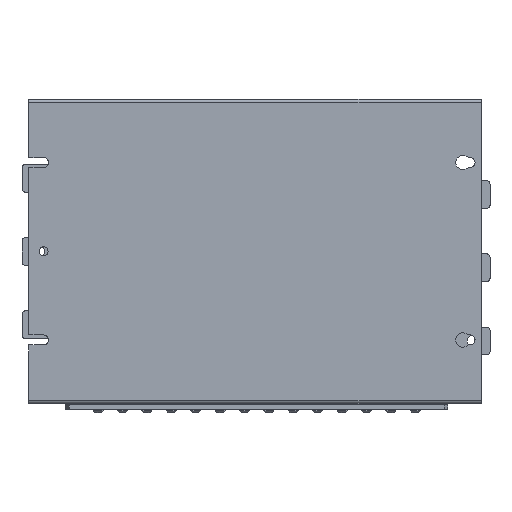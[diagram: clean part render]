
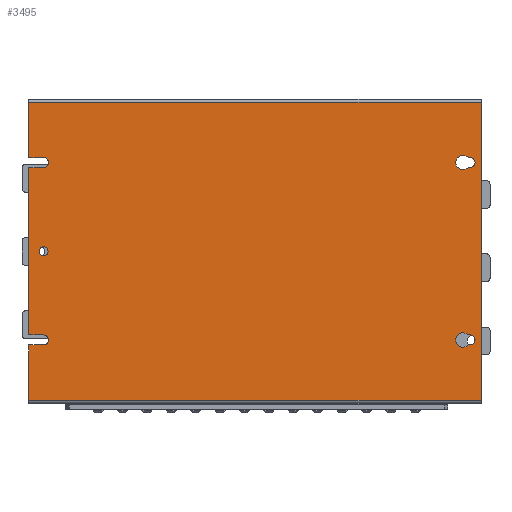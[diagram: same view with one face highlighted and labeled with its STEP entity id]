
A CAD part, top view. The second image highlights one B-rep face of the part: STEP entity #3495.
In plain terms, the highlighted planar face has unit normal (0, 0, 1).
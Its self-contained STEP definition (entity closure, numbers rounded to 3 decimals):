
#3495=ADVANCED_FACE('',(#35892,#35894,#35896,#35898),#35900,.T.);
#35892=FACE_BOUND('',#35893,.T.);
#35893=EDGE_LOOP('',(#67428,#67429,#67430,#67431,#67432,#67433,#67434,#67435,#67436,
#67437,#67438,#67439));
#35894=FACE_BOUND('',#35895,.T.);
#35895=EDGE_LOOP('',(#67440,#67441,#67442,#67443));
#35896=FACE_BOUND('',#35897,.T.);
#35897=EDGE_LOOP('',(#67444,#67445,#67446,#67447));
#35898=FACE_BOUND('',#35899,.T.);
#35899=EDGE_LOOP('',(#67448));
#35900=PLANE('',#35901);
#35901=AXIS2_PLACEMENT_3D('',#35902,#35903,#35904);
#35902=CARTESIAN_POINT('',(0.,137.,0.));
#35903=DIRECTION('',(0.,0.,1.));
#35904=DIRECTION('',(0.,-1.,0.));
#67428=ORIENTED_EDGE('',*,*,#93146,.F.);
#67429=ORIENTED_EDGE('',*,*,#93147,.T.);
#67430=ORIENTED_EDGE('',*,*,#93148,.T.);
#67431=ORIENTED_EDGE('',*,*,#93149,.F.);
#67432=ORIENTED_EDGE('',*,*,#93150,.F.);
#67433=ORIENTED_EDGE('',*,*,#93151,.T.);
#67434=ORIENTED_EDGE('',*,*,#93145,.F.);
#67435=ORIENTED_EDGE('',*,*,#93152,.F.);
#67436=ORIENTED_EDGE('',*,*,#93153,.T.);
#67437=ORIENTED_EDGE('',*,*,#93154,.T.);
#67438=ORIENTED_EDGE('',*,*,#93155,.T.);
#67439=ORIENTED_EDGE('',*,*,#93156,.F.);
#67440=ORIENTED_EDGE('',*,*,#93157,.T.);
#67441=ORIENTED_EDGE('',*,*,#93158,.F.);
#67442=ORIENTED_EDGE('',*,*,#93159,.T.);
#67443=ORIENTED_EDGE('',*,*,#93160,.F.);
#67444=ORIENTED_EDGE('',*,*,#93161,.F.);
#67445=ORIENTED_EDGE('',*,*,#93162,.T.);
#67446=ORIENTED_EDGE('',*,*,#93163,.F.);
#67447=ORIENTED_EDGE('',*,*,#93164,.T.);
#67448=ORIENTED_EDGE('',*,*,#93165,.T.);
#93145=EDGE_CURVE('',#103526,#103529,#103531,.T.);
#93146=EDGE_CURVE('',#103532,#103533,#103534,.T.);
#93147=EDGE_CURVE('',#103532,#103535,#103536,.T.);
#93148=EDGE_CURVE('',#103535,#103537,#103538,.T.);
#93149=EDGE_CURVE('',#103539,#103537,#103540,.T.);
#93150=EDGE_CURVE('',#103541,#103539,#103542,.T.);
#93151=EDGE_CURVE('',#103541,#103529,#103543,.T.);
#93152=EDGE_CURVE('',#103544,#103526,#103545,.T.);
#93153=EDGE_CURVE('',#103544,#103546,#103547,.T.);
#93154=EDGE_CURVE('',#103546,#103548,#103549,.T.);
#93155=EDGE_CURVE('',#103548,#103550,#103551,.T.);
#93156=EDGE_CURVE('',#103533,#103550,#103552,.T.);
#93157=EDGE_CURVE('',#103553,#103554,#103555,.T.);
#93158=EDGE_CURVE('',#103556,#103554,#103557,.T.);
#93159=EDGE_CURVE('',#103556,#103558,#103559,.T.);
#93160=EDGE_CURVE('',#103553,#103558,#103560,.T.);
#93161=EDGE_CURVE('',#103561,#103562,#103563,.T.);
#93162=EDGE_CURVE('',#103561,#103564,#103565,.T.);
#93163=EDGE_CURVE('',#103566,#103564,#103567,.T.);
#93164=EDGE_CURVE('',#103566,#103562,#103568,.T.);
#93165=EDGE_CURVE('',#103569,#103569,#103570,.T.);
#103526=VERTEX_POINT('',#119825);
#103529=VERTEX_POINT('',#119833);
#103531=LINE('',#119838,#119839);
#103532=VERTEX_POINT('',#119841);
#103533=VERTEX_POINT('',#119842);
#103534=LINE('',#119843,#119844);
#103535=VERTEX_POINT('',#119846);
#103536=LINE('',#119847,#119848);
#103537=VERTEX_POINT('',#119850);
#103538=LINE('',#119851,#119852);
#103539=VERTEX_POINT('',#119854);
#103540=CIRCLE('',#119855,4.5);
#103541=VERTEX_POINT('',#119859);
#103542=LINE('',#119860,#119861);
#103543=LINE('',#119863,#119864);
#103544=VERTEX_POINT('',#119866);
#103545=LINE('',#119867,#119868);
#103546=VERTEX_POINT('',#119870);
#103547=LINE('',#119871,#119872);
#103548=VERTEX_POINT('',#119874);
#103549=LINE('',#119875,#119876);
#103550=VERTEX_POINT('',#119878);
#103551=LINE('',#119879,#119880);
#103552=CIRCLE('',#119882,4.5);
#103553=VERTEX_POINT('',#119886);
#103554=VERTEX_POINT('',#119887);
#103555=LINE('',#119888,#119889);
#103556=VERTEX_POINT('',#119891);
#103557=CIRCLE('',#119892,6.5);
#103558=VERTEX_POINT('',#119896);
#103559=LINE('',#119897,#119898);
#103560=CIRCLE('',#119900,4.5);
#103561=VERTEX_POINT('',#119904);
#103562=VERTEX_POINT('',#119905);
#103563=CIRCLE('',#119906,6.5);
#103564=VERTEX_POINT('',#119910);
#103565=LINE('',#119911,#119912);
#103566=VERTEX_POINT('',#119914);
#103567=CIRCLE('',#119915,4.5);
#103568=LINE('',#119919,#119920);
#103569=VERTEX_POINT('',#119922);
#103570=CIRCLE('',#119923,4.);
#119825=CARTESIAN_POINT('',(408.,-134.5,0.));
#119833=CARTESIAN_POINT('',(0.,-134.5,0.));
#119838=CARTESIAN_POINT('',(408.,-134.5,0.));
#119839=VECTOR('',#119840,1.);
#119840=DIRECTION('',(-1.,0.,0.));
#119841=CARTESIAN_POINT('',(0.,75.5,0.));
#119842=CARTESIAN_POINT('',(13.5,75.5,0.));
#119843=CARTESIAN_POINT('',(0.,75.5,0.));
#119844=VECTOR('',#119845,1.);
#119845=DIRECTION('',(1.,0.,0.));
#119846=CARTESIAN_POINT('',(0.,-75.5,0.));
#119847=CARTESIAN_POINT('',(0.,75.5,0.));
#119848=VECTOR('',#119849,1.);
#119849=DIRECTION('',(0.,-1.,0.));
#119850=CARTESIAN_POINT('',(13.5,-75.5,0.));
#119851=CARTESIAN_POINT('',(0.,-75.5,0.));
#119852=VECTOR('',#119853,1.);
#119853=DIRECTION('',(1.,0.,0.));
#119854=CARTESIAN_POINT('',(13.5,-84.5,0.));
#119855=AXIS2_PLACEMENT_3D('',#119856,#119857,#119858);
#119856=CARTESIAN_POINT('',(13.5,-80.,0.));
#119857=DIRECTION('',(0.,0.,1.));
#119858=DIRECTION('',(0.,-1.,0.));
#119859=CARTESIAN_POINT('',(0.,-84.5,0.));
#119860=CARTESIAN_POINT('',(0.,-84.5,0.));
#119861=VECTOR('',#119862,1.);
#119862=DIRECTION('',(1.,0.,0.));
#119863=CARTESIAN_POINT('',(0.,-84.5,0.));
#119864=VECTOR('',#119865,1.);
#119865=DIRECTION('',(0.,-1.,0.));
#119866=CARTESIAN_POINT('',(408.,134.5,0.));
#119867=CARTESIAN_POINT('',(408.,134.5,0.));
#119868=VECTOR('',#119869,1.);
#119869=DIRECTION('',(0.,-1.,0.));
#119870=CARTESIAN_POINT('',(0.,134.5,0.));
#119871=CARTESIAN_POINT('',(408.,134.5,0.));
#119872=VECTOR('',#119873,1.);
#119873=DIRECTION('',(-1.,0.,0.));
#119874=CARTESIAN_POINT('',(0.,84.5,0.));
#119875=CARTESIAN_POINT('',(0.,134.5,0.));
#119876=VECTOR('',#119877,1.);
#119877=DIRECTION('',(0.,-1.,0.));
#119878=CARTESIAN_POINT('',(13.5,84.5,0.));
#119879=CARTESIAN_POINT('',(0.,84.5,0.));
#119880=VECTOR('',#119881,1.);
#119881=DIRECTION('',(1.,0.,0.));
#119882=AXIS2_PLACEMENT_3D('',#119883,#119884,#119885);
#119883=CARTESIAN_POINT('',(13.5,80.,0.));
#119884=DIRECTION('',(0.,0.,1.));
#119885=DIRECTION('',(0.,-1.,0.));
#119886=CARTESIAN_POINT('',(398.,75.5,0.));
#119887=CARTESIAN_POINT('',(396.19,75.5,0.));
#119888=CARTESIAN_POINT('',(398.,75.5,0.));
#119889=VECTOR('',#119890,1.);
#119890=DIRECTION('',(-1.,0.,0.));
#119891=CARTESIAN_POINT('',(396.19,84.5,0.));
#119892=AXIS2_PLACEMENT_3D('',#119893,#119894,#119895);
#119893=CARTESIAN_POINT('',(391.5,80.,0.));
#119894=DIRECTION('',(0.,0.,1.));
#119895=DIRECTION('',(0.722,0.692,0.));
#119896=CARTESIAN_POINT('',(398.,84.5,0.));
#119897=CARTESIAN_POINT('',(396.19,84.5,0.));
#119898=VECTOR('',#119899,1.);
#119899=DIRECTION('',(1.,0.,0.));
#119900=AXIS2_PLACEMENT_3D('',#119901,#119902,#119903);
#119901=CARTESIAN_POINT('',(398.,80.,0.));
#119902=DIRECTION('',(0.,0.,1.));
#119903=DIRECTION('',(0.,-1.,0.));
#119904=CARTESIAN_POINT('',(396.19,-75.5,0.));
#119905=CARTESIAN_POINT('',(396.19,-84.5,0.));
#119906=AXIS2_PLACEMENT_3D('',#119907,#119908,#119909);
#119907=CARTESIAN_POINT('',(391.5,-80.,0.));
#119908=DIRECTION('',(0.,0.,1.));
#119909=DIRECTION('',(0.722,0.692,0.));
#119910=CARTESIAN_POINT('',(398.,-75.5,0.));
#119911=CARTESIAN_POINT('',(396.19,-75.5,0.));
#119912=VECTOR('',#119913,1.);
#119913=DIRECTION('',(1.,0.,0.));
#119914=CARTESIAN_POINT('',(398.,-84.5,0.));
#119915=AXIS2_PLACEMENT_3D('',#119916,#119917,#119918);
#119916=CARTESIAN_POINT('',(398.,-80.,0.));
#119917=DIRECTION('',(0.,0.,1.));
#119918=DIRECTION('',(0.,-1.,0.));
#119919=CARTESIAN_POINT('',(398.,-84.5,0.));
#119920=VECTOR('',#119921,1.);
#119921=DIRECTION('',(-1.,0.,0.));
#119922=CARTESIAN_POINT('',(13.5,-4.,0.));
#119923=AXIS2_PLACEMENT_3D('',#119924,#119925,#119926);
#119924=CARTESIAN_POINT('',(13.5,0.,0.));
#119925=DIRECTION('',(0.,0.,-1.));
#119926=DIRECTION('',(0.,-1.,0.));
